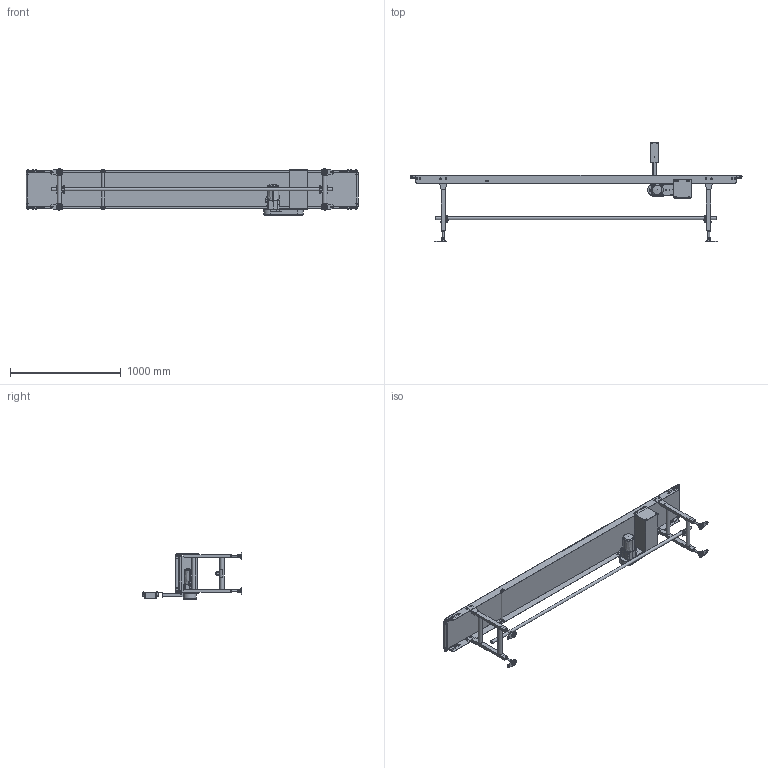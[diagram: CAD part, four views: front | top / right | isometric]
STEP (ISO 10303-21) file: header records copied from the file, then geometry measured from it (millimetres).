
FILE_DESCRIPTION( (''), '2;1');
FILE_NAME ('WEB-FB2C-UD-309-300-300-K-60.stp','2025-10-17T09:58:16',(''),(''),'spGate 20.6.2 (****-****-****-****)','','');
FILE_SCHEMA (('AUTOMOTIVE_DESIGN'));
Length unit declared in the file: millimetre
Products named in the file (94): WEB-FB2C-UD-309-300-300-K-60; (V)FPW690S2-3～180; TEMP_X_T-prt1; TEMP_X_T-prt2; TEMP_X_T-prt3; TEMP_X_T-prt4; TEMP_X_T-prt5; TEMP_X_T-prt6; TEMP_X_T-prt7; TEMP_X_T-prt8; TEMP_X_T-prt9; TEMP_X_T-prt10; TEMP_X_T-prt11; TEMP_X_T-prt12; TEMP_X_T-prt13; TEMP_X_T-prt14; TEMP_X_T-prt15; TEMP_X_T-prt16; TEMP_X_T-prt17; TEMP_X_T-prt18; TEMP_X_T-prt19; TEMP_X_T-prt20; TEMP_X_T-prt21; TEMP_X_T-prt22; TEMP_X_T-prt23; TEMP_X_T-prt24; TEMP_X_T-prt25; TEMP_X_T-prt26; TEMP_X_T-prt27; TEMP_X_T-prt28; TEMP_X_T-prt29; TEMP_X_T-prt30; TEMP_X_T-prt31; TEMP_X_T-prt32; TEMP_X_T-prt33; TEMP_X_T-prt34; TEMP_X_T-prt35; TEMP_X_T-prt36; TEMP_X_T-prt37; TEMP_X_T-prt38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
Assembly tree (93 placements, depth 2):
  WEB-FB2C-UD-309-300-300-K-60
    (V)FPW690S2-3～180
    TEMP_X_T-prt1
    TEMP_X_T-prt2
    TEMP_X_T-prt3
    TEMP_X_T-prt4
    TEMP_X_T-prt5
    TEMP_X_T-prt6
    TEMP_X_T-prt7
    TEMP_X_T-prt8
    TEMP_X_T-prt9
    TEMP_X_T-prt10
    TEMP_X_T-prt11
    TEMP_X_T-prt12
    TEMP_X_T-prt13
    TEMP_X_T-prt14
    TEMP_X_T-prt15
    TEMP_X_T-prt16
    TEMP_X_T-prt17
    TEMP_X_T-prt18
    TEMP_X_T-prt19
    TEMP_X_T-prt20
    TEMP_X_T-prt21
    TEMP_X_T-prt22
    TEMP_X_T-prt23
    TEMP_X_T-prt24
    TEMP_X_T-prt25
    TEMP_X_T-prt26
    TEMP_X_T-prt27
    TEMP_X_T-prt28
    TEMP_X_T-prt29
    TEMP_X_T-prt30
    TEMP_X_T-prt31
    TEMP_X_T-prt32
    TEMP_X_T-prt33
    TEMP_X_T-prt34
    TEMP_X_T-prt35
    TEMP_X_T-prt36
    TEMP_X_T-prt37
    TEMP_X_T-prt38
    TEMP_X_T-prt39
    TEMP_X_T-prt40
    TEMP_X_T-prt41
    TEMP_X_T-prt42
    TEMP_X_T-prt43
    TEMP_X_T-prt44
    TEMP_X_T-prt45
    TEMP_X_T-prt46
    TEMP_X_T-prt47
    TEMP_X_T-prt48
    TEMP_X_T-prt49
    TEMP_X_T-prt50
    TEMP_X_T-prt51
    TEMP_X_T-prt52
    TEMP_X_T-prt53
    TEMP_X_T-prt54
    TEMP_X_T-prt55
    TEMP_X_T-prt56
    TEMP_X_T-prt57
    TEMP_X_T-prt58
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Bounding box: 3002 x 899.5 x 420 mm (x, y, z)
Volume: 21139167.4 mm3; surface area: 8364138.9 mm2
Topology: 93 solids, 93 shells, 2116 faces, 5195 edges, 3375 vertices
Faces by surface type: plane 1290, bspline 465, cylinder 360, sphere 1
Full cylindrical faces by diameter (mm): 4.2 x1, 5 x11, 6 x24, 7 x48, 7.8 x2, 8 x20, 8.5 x8, 9 x4, 9.2 x3, 10 x22, 12.2 x6, 12.5 x12, 13 x8, 14 x20, 16 x20, 16.2 x4, 17 x4, 18 x1, 19 x2, 20 x1, 26 x1, 27.2 x3, 27.8 x3, 31 x1, 38 x4, 42 x1, 94 x1
Entity records: 112305 total; most frequent: CARTESIAN_POINT 19728, ORIENTED_EDGE 10372, DIRECTION 9618, COLOUR_RGB 7395, PRESENTATION_STYLE_ASSIGNMENT 7395, STYLED_ITEM 7395, EDGE_CURVE 5186, DRAUGHTING_PRE_DEFINED_CURVE_FONT 5186
